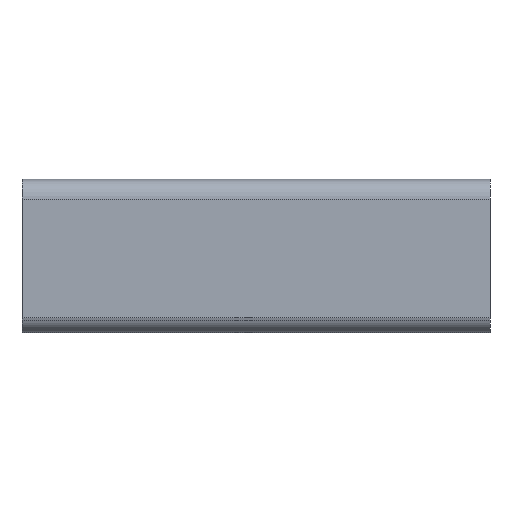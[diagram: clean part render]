
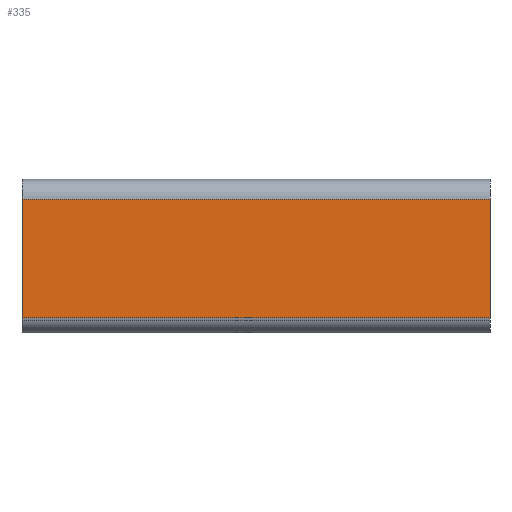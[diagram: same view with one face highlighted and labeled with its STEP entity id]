
A CAD part, front view. The second image highlights one B-rep face of the part: STEP entity #335.
In plain terms, the highlighted planar face has unit normal (0, 1, 0).
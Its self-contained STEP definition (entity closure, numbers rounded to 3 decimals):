
#335=ADVANCED_FACE('',(#410),#398,.T.);
#398=PLANE('',#1183);
#410=FACE_OUTER_BOUND('',#465,.T.);
#465=EDGE_LOOP('',(#561,#562,#563,#564));
#561=ORIENTED_EDGE('',*,*,#967,.T.);
#562=ORIENTED_EDGE('',*,*,#963,.F.);
#563=ORIENTED_EDGE('',*,*,#968,.T.);
#564=ORIENTED_EDGE('',*,*,#969,.T.);
#847=VERTEX_POINT('',#1362);
#848=VERTEX_POINT('',#1364);
#851=VERTEX_POINT('',#1374);
#852=VERTEX_POINT('',#1376);
#963=EDGE_CURVE('',#848,#847,#1124,.T.);
#967=EDGE_CURVE('',#851,#847,#1128,.T.);
#968=EDGE_CURVE('',#848,#852,#1129,.T.);
#969=EDGE_CURVE('',#852,#851,#1130,.T.);
#1124=LINE('',#1365,#1154);
#1128=LINE('',#1373,#1158);
#1129=LINE('',#1375,#1159);
#1130=LINE('',#1377,#1160);
#1154=VECTOR('',#1246,1.);
#1158=VECTOR('',#1254,1.);
#1159=VECTOR('',#1255,1.);
#1160=VECTOR('',#1256,1.);
#1183=AXIS2_PLACEMENT_3D('',#1378,#1257,#1258);
#1246=DIRECTION('',(1.,0.,0.));
#1254=DIRECTION('',(0.,0.,-1.));
#1255=DIRECTION('',(0.,0.,1.));
#1256=DIRECTION('',(1.,0.,0.));
#1257=DIRECTION('',(0.,1.,0.));
#1258=DIRECTION('',(0.,0.,-1.));
#1362=CARTESIAN_POINT('',(-302.5,-625.,-169.807));
#1364=CARTESIAN_POINT('',(-2896.,-625.,-169.807));
#1365=CARTESIAN_POINT('',(-2896.,-625.,-169.807));
#1373=CARTESIAN_POINT('',(-302.5,-625.,486.193));
#1374=CARTESIAN_POINT('',(-302.5,-625.,486.193));
#1375=CARTESIAN_POINT('',(-2896.,-625.,486.193));
#1376=CARTESIAN_POINT('',(-2896.,-625.,486.193));
#1377=CARTESIAN_POINT('',(-2896.,-625.,486.193));
#1378=CARTESIAN_POINT('',(-2896.,-625.,486.193));
